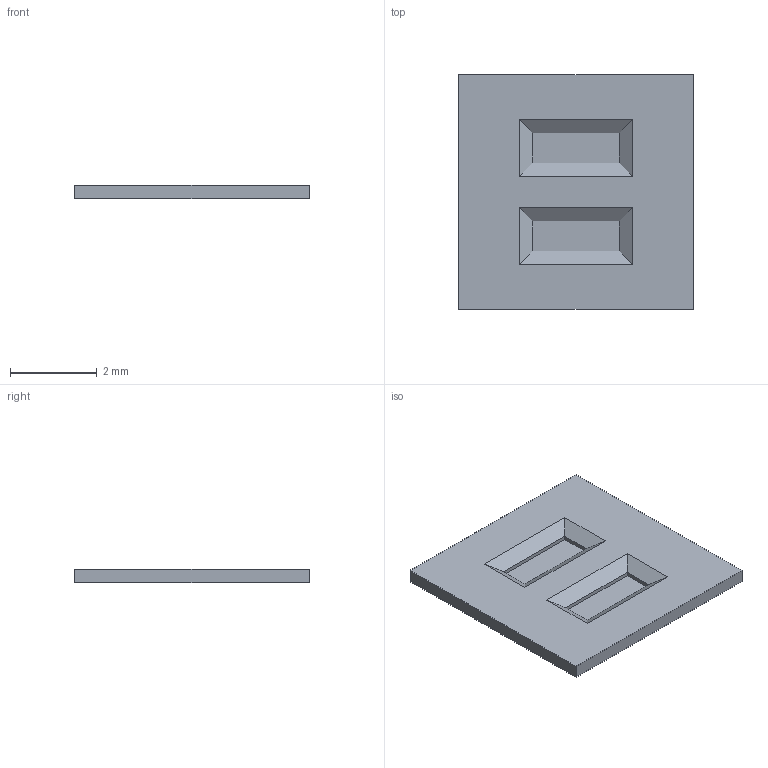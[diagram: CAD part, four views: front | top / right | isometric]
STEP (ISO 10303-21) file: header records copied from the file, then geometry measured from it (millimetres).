
FILE_DESCRIPTION(('HOOPS Exchange Step'),'2;1');
FILE_NAME('/Users/xavierjoseph/Library/Containers/com.shapr3d.shapr/Data/tmp/export/temp_export','2025-08-18T11:39:38-04:00',('xavierjoseph'),('Shapr3D Limited'),'HOOPS Exchange 2024.8','Shapr3D','Authorized');
FILE_SCHEMA( ('AP242_MANAGED_MODEL_BASED_3D_ENGINEERING_MIM_LF {1 0 10303 442 1 1 4}') );
Length unit declared in the file: millimetre
Products named in the file (4): Pore Layer:1; 2 Slot Membrane:1; 2 Slot Membrane v2.step; root
Assembly tree (3 placements, depth 3):
  root
    2 Slot Membrane v2.step
      Pore Layer:1
      2 Slot Membrane:1
Bounding box: 5.4 x 5.4 x 0.31 mm (x, y, z)
Volume: 7.8 mm3; surface area: 119.6 mm2
Topology: 2 solids, 2 shells, 28 faces, 64 edges, 40 vertices
Faces by surface type: plane 28
Entity records: 891 total; most frequent: CARTESIAN_POINT 140, DIRECTION 136, ORIENTED_EDGE 128, VECTOR 64, LINE 64, EDGE_CURVE 64, VERTEX_POINT 40, AXIS2_PLACEMENT_3D 36
